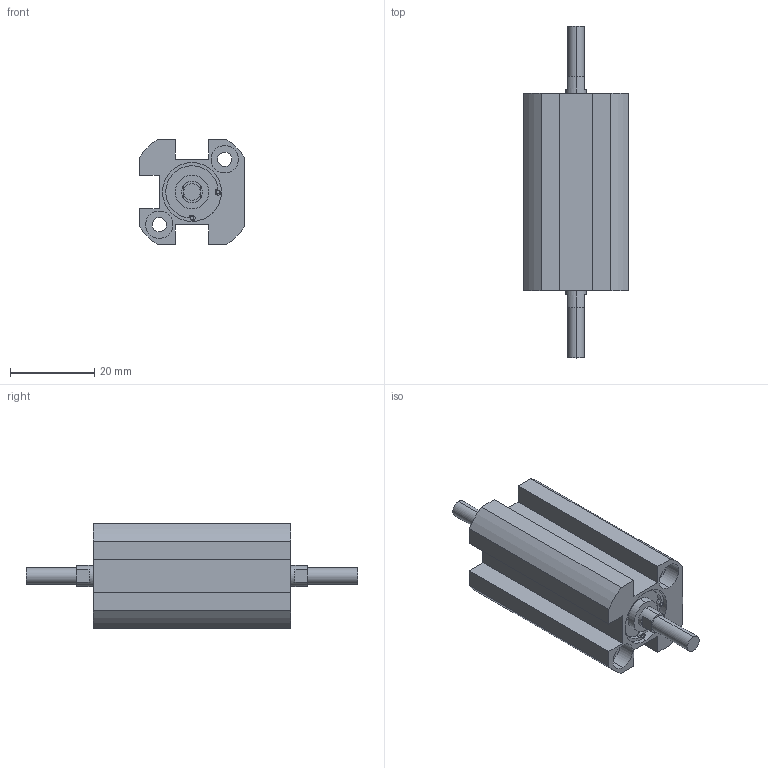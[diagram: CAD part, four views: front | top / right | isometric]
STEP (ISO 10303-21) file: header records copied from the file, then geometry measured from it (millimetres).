
FILE_DESCRIPTION (( 'STEP AP203' ), '1' );
FILE_NAME ('XG#M7-10D-10.STEP', '2016-05-24T02:21:31', ( '' ), ( '' ), 'SwSTEP 2.0', 'SolidWorks 2014', '' );
FILE_SCHEMA (( 'CONFIG_CONTROL_DESIGN' ));
Length unit declared in the file: millimetre
Products named in the file (1): XG#M7-10D-10
Bounding box: 25 x 79 x 25 mm (x, y, z)
Volume: 21118.5 mm3; surface area: 8703.5 mm2
Topology: 1 solids, 1 shells, 108 faces, 266 edges, 172 vertices
Faces by surface type: cylinder 58, plane 46, cone 4
Entity records: 3297 total; most frequent: DIRECTION 610, CARTESIAN_POINT 543, ORIENTED_EDGE 524, EDGE_CURVE 262, AXIS2_PLACEMENT_3D 239, VERTEX_POINT 172, LINE 132, VECTOR 132
